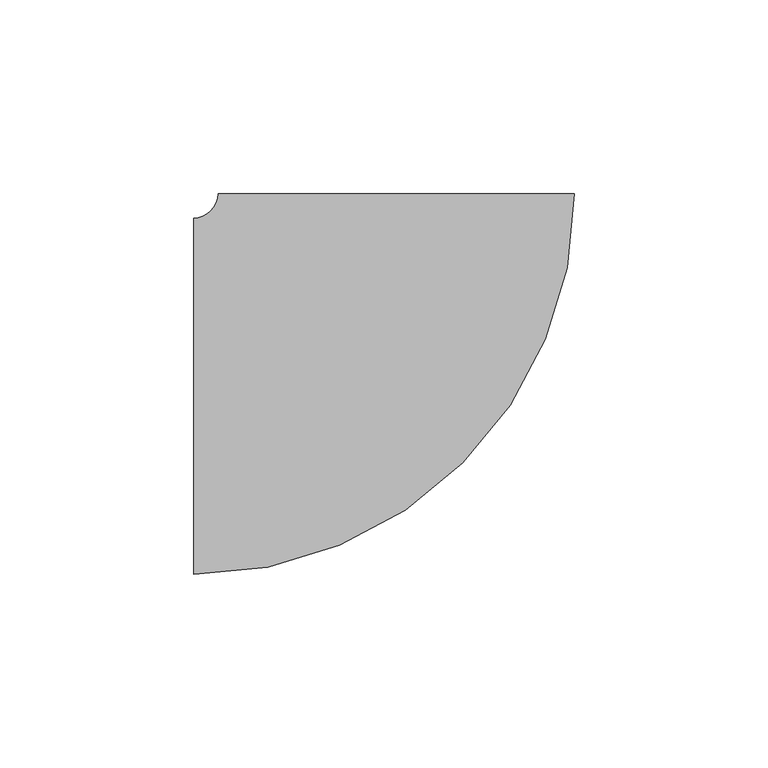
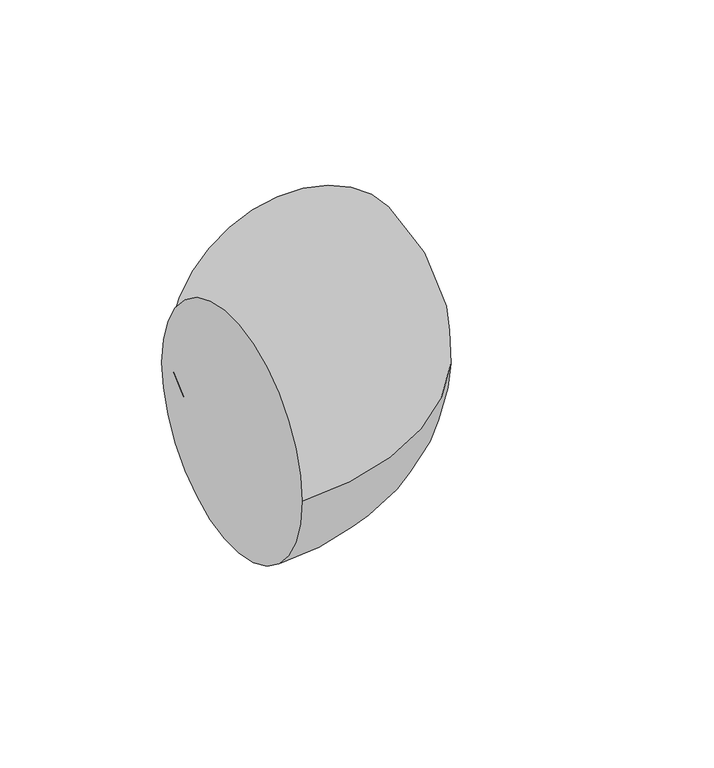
"""IFC4 building model written with IfcOpenShell, lengths in millimetres: pipe fitting geometry, M_Codo - Genérico : Estándar."""

from ifc_helpers import new_model, si_unit, point, frame, origin, place, context, project, spatial, circle_curve, ellipse_curve, trimmed, source, transform, mapped, element, save
from ifc_brep_helpers import plane_surface, revolved_surface, advanced_brep


def pipe_fitting_0bc3994a(model_context):
    return source(origin(), model_context, "Body", "AdvancedBrep", [
        advanced_brep(
        [(-52.3866038, -46.0375, 0.0), (-52.3866038, 46.0375, 0.0), (46.0383962, 52.3858161, 0.0), (-46.0366038, 52.3873914, 0.0)],
        [
            (0, 1, circle_curve(frame((-52.3866038, 0.0, 0.0), z_axis=(-1.0, 0.0, 0.0), x_axis=(0.0, 1.0, 0.0)), 46.0375)),
            (1, 0, circle_curve(frame((-52.3866038, 0.0, 0.0), z_axis=(-1.0, 0.0, 0.0), x_axis=(0.0, 1.0, 0.0)), 46.0375)),
            (2, 3, circle_curve(frame((0.0008962, 52.3866037, 0.0), z_axis=(1.710820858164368e-05, 0.9999999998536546, 0.0), x_axis=(-0.9999999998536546, 1.710820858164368e-05, 0.0)), 46.0375)),
            (3, 2, circle_curve(frame((0.0008962, 52.3866037, 0.0), z_axis=(1.710820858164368e-05, 0.9999999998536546, 0.0), x_axis=(-0.9999999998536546, 1.710820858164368e-05, 0.0)), 46.0375)),
            (3, 1, circle_curve(frame((-52.3866038, 52.3875, 0.0), z_axis=(0.0, 0.0, -1.0), x_axis=(0.0, -1.0, 0.0)), 6.35)),
            (0, 2, circle_curve(frame((-52.3866038, 52.3875, 0.0), z_axis=(0.0, 0.0, 1.0), x_axis=(0.0, -1.0, 0.0)), 98.425)),
        ],
        [
            plane_surface(frame((-52.3866038, 0.0, 0.0), z_axis=(-1.0, 0.0, 0.0), x_axis=(0.0, 0.0, 1.0))),
            plane_surface(frame((0.0008962, 52.3866037, 0.0), z_axis=(1.7108208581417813e-05, 0.9999999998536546, 0.0), x_axis=(0.0, 0.0, 1.0))),
            revolved_surface(trimmed(ellipse_curve(frame((-52.3866038, 0.0, 0.0), z_axis=(-1.0, 0.0, 0.0), x_axis=(0.0, 1.0, 0.0)), 46.0375, 46.0375), [point((-52.3866038, -46.0375, 0.0))], [point((-52.3866038, 46.0375, 0.0))], True, "CARTESIAN"), (-52.3866038, 52.3875, 0.0), (0.0, 0.0, 1.0)),
            revolved_surface(trimmed(ellipse_curve(frame((-52.3866038, 0.0, 0.0), z_axis=(-1.0, 0.0, 0.0), x_axis=(0.0, 1.0, 0.0)), 46.0375, 46.0375), [point((-52.3866038, 46.0375, 0.0))], [point((-52.3866038, -46.0375, 0.0))], True, "CARTESIAN"), (-52.3866038, 52.3875, 0.0), (0.0, 0.0, 1.0)),
        ],
        [
            (0, [[1, 2]]),
            (1, [[3, 4]]),
            (2, [[5, -1, 6, -4]]),
            (3, [[-6, -2, -5, -3]]),
        ],
    ),
    ])


if __name__ == "__main__":
    model = new_model("IFC4")
    model_context = context("Model", 3, world=origin())
    ifc_project = project(units=[si_unit("LENGTHUNIT", "METRE", prefix="MILLI")], contexts=[model_context])
    site = spatial("IfcSite", under=ifc_project)
    building = spatial("IfcBuilding", under=site)
    placement = place(None, origin())
    pipe_fitting_shape = pipe_fitting_0bc3994a(model_context)
    element("IfcPipeFitting", 1, ObjectType="M_Codo - Genérico : Estándar", at=placement, inside=building, context=model_context, shape_type="MappedRepresentation", body=[
        mapped(pipe_fitting_shape, transform((0.0, 0.0, 0.0), x_axis=(1.0, 0.0, 0.0), y_axis=(0.0, 1.0, 0.0), z_axis=(0.0, 0.0, 1.0))),
    ])
    save(model, "model.ifc")
